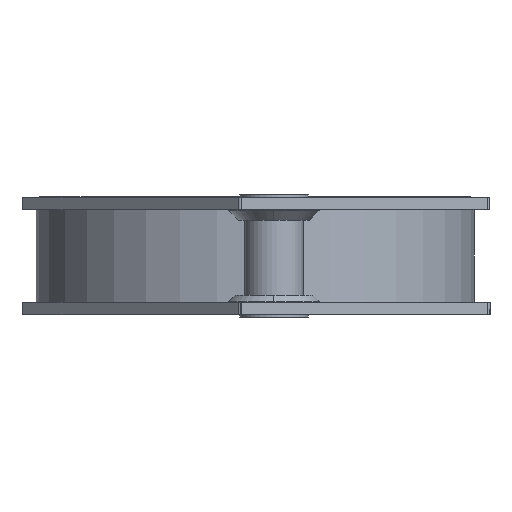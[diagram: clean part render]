
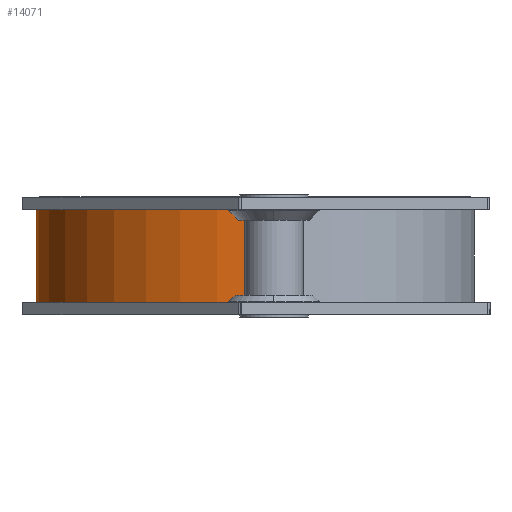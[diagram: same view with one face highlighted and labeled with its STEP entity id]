
A CAD part, left-side view. The second image highlights one B-rep face of the part: STEP entity #14071.
In plain terms, the highlighted cylindrical face has radius 35.56 mm (diameter 71.12 mm), a partial arc.
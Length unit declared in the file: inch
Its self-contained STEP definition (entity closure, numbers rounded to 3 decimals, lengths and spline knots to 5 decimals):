
#188 = VECTOR ( 'NONE', #3037, 39.37008 ) ;
#275 = CIRCLE ( 'NONE', #8766, 1.4 ) ;
#1532 = VERTEX_POINT ( 'NONE', #10485 ) ;
#2380 = EDGE_LOOP ( 'NONE', ( #14742, #18842, #21243, #21024 ) ) ;
#3037 = DIRECTION ( 'NONE',  ( 0., 0., -1. ) ) ;
#3507 = DIRECTION ( 'NONE',  ( 0., 0., 1. ) ) ;
#4296 = DIRECTION ( 'NONE',  ( 0., 0., 1. ) ) ;
#4402 = CARTESIAN_POINT ( 'NONE',  ( 1.4, 0., -0.295 ) ) ;
#4437 = VECTOR ( 'NONE', #14453, 39.37008 ) ;
#5213 = CARTESIAN_POINT ( 'NONE',  ( -1.4, 0., 0.295 ) ) ;
#5359 = EDGE_CURVE ( 'NONE', #1532, #21225, #17668, .T. ) ;
#6431 = CYLINDRICAL_SURFACE ( 'NONE', #10112, 1.4 ) ;
#7930 = CARTESIAN_POINT ( 'NONE',  ( -1.4, 0., 0.295 ) ) ;
#8766 = AXIS2_PLACEMENT_3D ( 'NONE', #16714, #3507, #10073 ) ;
#8951 = DIRECTION ( 'NONE',  ( -1., 0., 0. ) ) ;
#9165 = CARTESIAN_POINT ( 'NONE',  ( 0., 0., 0.295 ) ) ;
#9533 = FACE_OUTER_BOUND ( 'NONE', #2380, .T. ) ;
#9598 = CIRCLE ( 'NONE', #12947, 1.4 ) ;
#10073 = DIRECTION ( 'NONE',  ( 1., 0., 0. ) ) ;
#10112 = AXIS2_PLACEMENT_3D ( 'NONE', #17065, #18754, #8951 ) ;
#10485 = CARTESIAN_POINT ( 'NONE',  ( 1.4, 0., 0.295 ) ) ;
#10652 = LINE ( 'NONE', #7930, #188 ) ;
#12002 = EDGE_CURVE ( 'NONE', #21225, #14411, #275, .T. ) ;
#12793 = CARTESIAN_POINT ( 'NONE',  ( 1.4, 0., 0.295 ) ) ;
#12937 = VERTEX_POINT ( 'NONE', #5213 ) ;
#12947 = AXIS2_PLACEMENT_3D ( 'NONE', #9165, #4296, #20621 ) ;
#14071 = ADVANCED_FACE ( 'NONE', ( #9533 ), #6431, .T. ) ;
#14411 = VERTEX_POINT ( 'NONE', #14828 ) ;
#14453 = DIRECTION ( 'NONE',  ( 0., 0., -1. ) ) ;
#14742 = ORIENTED_EDGE ( 'NONE', *, *, #19157, .F. ) ;
#14828 = CARTESIAN_POINT ( 'NONE',  ( -1.4, 0., -0.295 ) ) ;
#16714 = CARTESIAN_POINT ( 'NONE',  ( 0., 0., -0.295 ) ) ;
#17065 = CARTESIAN_POINT ( 'NONE',  ( 0., 0., 0.295 ) ) ;
#17668 = LINE ( 'NONE', #12793, #4437 ) ;
#18754 = DIRECTION ( 'NONE',  ( 0., 0., -1. ) ) ;
#18842 = ORIENTED_EDGE ( 'NONE', *, *, #5359, .T. ) ;
#19157 = EDGE_CURVE ( 'NONE', #1532, #12937, #9598, .T. ) ;
#19275 = EDGE_CURVE ( 'NONE', #12937, #14411, #10652, .T. ) ;
#20621 = DIRECTION ( 'NONE',  ( 1., 0., 0. ) ) ;
#21024 = ORIENTED_EDGE ( 'NONE', *, *, #19275, .F. ) ;
#21225 = VERTEX_POINT ( 'NONE', #4402 ) ;
#21243 = ORIENTED_EDGE ( 'NONE', *, *, #12002, .T. ) ;
